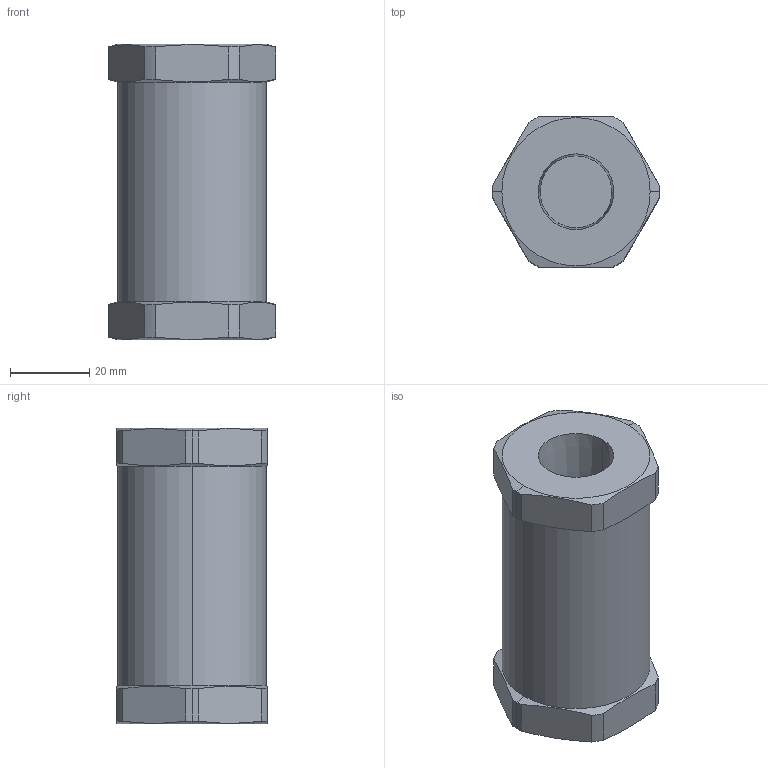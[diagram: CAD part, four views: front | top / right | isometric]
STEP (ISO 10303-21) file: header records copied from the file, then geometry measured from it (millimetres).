
FILE_DESCRIPTION (( 'STEP AP203' ), '1' );
FILE_NAME ('CV-500B-__-__.STEP', '2011-11-04T21:12:07', ( 'Tim' ), ( 'Microsoft' ), 'SwSTEP 2.0', 'SolidWorks 2011', '' );
FILE_SCHEMA (( 'CONFIG_CONTROL_DESIGN' ));
Length unit declared in the file: inch
Products named in the file (1): CV-500B-__-__
Bounding box: 42.32 x 38.1 x 74.6 mm (x, y, z)
Volume: 76432.7 mm3; surface area: 13382.5 mm2
Topology: 1 solids, 1 shells, 44 faces, 112 edges, 72 vertices
Faces by surface type: cylinder 16, plane 16, cone 12
Entity records: 1571 total; most frequent: CARTESIAN_POINT 429, DIRECTION 226, ORIENTED_EDGE 224, EDGE_CURVE 112, AXIS2_PLACEMENT_3D 93, VERTEX_POINT 72, CIRCLE 48, EDGE_LOOP 46
